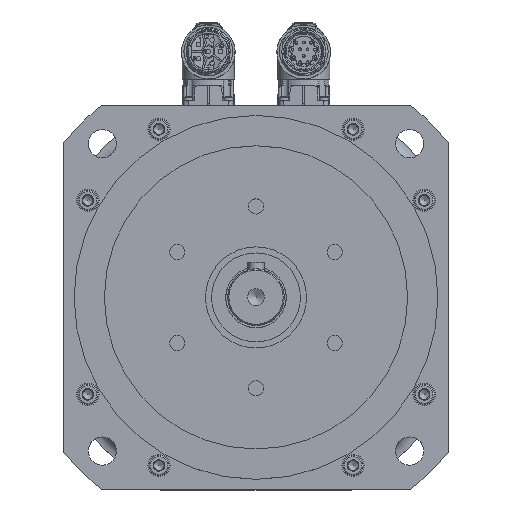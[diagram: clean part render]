
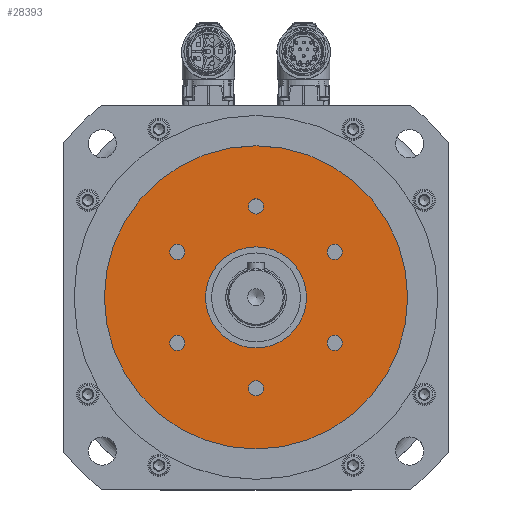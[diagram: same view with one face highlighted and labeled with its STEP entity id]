
A CAD part, top view. The second image highlights one B-rep face of the part: STEP entity #28393.
In plain terms, the highlighted planar face has unit normal (0, 0, 1).
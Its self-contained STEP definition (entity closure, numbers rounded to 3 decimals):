
#3906=FACE_BOUND('',#6308,.T.);
#3907=FACE_BOUND('',#6309,.T.);
#3908=FACE_BOUND('',#6310,.T.);
#3909=FACE_BOUND('',#6311,.T.);
#3910=FACE_BOUND('',#6312,.T.);
#3911=FACE_BOUND('',#6313,.T.);
#3912=FACE_BOUND('',#6314,.T.);
#3913=FACE_BOUND('',#6315,.T.);
#6308=EDGE_LOOP('',(#19821));
#6309=EDGE_LOOP('',(#19822));
#6310=EDGE_LOOP('',(#19823));
#6311=EDGE_LOOP('',(#19824));
#6312=EDGE_LOOP('',(#19825));
#6313=EDGE_LOOP('',(#19826));
#6314=EDGE_LOOP('',(#19827));
#6315=EDGE_LOOP('',(#19828));
#11523=CIRCLE('',#30172,3.75);
#11524=CIRCLE('',#30174,3.75);
#11525=CIRCLE('',#30176,3.75);
#11526=CIRCLE('',#30178,3.75);
#11527=CIRCLE('',#30180,3.75);
#11528=CIRCLE('',#30182,3.75);
#11558=CIRCLE('',#30241,25.);
#11562=CIRCLE('',#30250,75.);
#12883=VERTEX_POINT('',#40864);
#12884=VERTEX_POINT('',#40867);
#12885=VERTEX_POINT('',#40870);
#12886=VERTEX_POINT('',#40873);
#12887=VERTEX_POINT('',#40876);
#12888=VERTEX_POINT('',#40879);
#12918=VERTEX_POINT('',#40968);
#12922=VERTEX_POINT('',#40981);
#15750=EDGE_CURVE('',#12883,#12883,#11523,.T.);
#15751=EDGE_CURVE('',#12884,#12884,#11524,.T.);
#15752=EDGE_CURVE('',#12885,#12885,#11525,.T.);
#15753=EDGE_CURVE('',#12886,#12886,#11526,.T.);
#15754=EDGE_CURVE('',#12887,#12887,#11527,.T.);
#15755=EDGE_CURVE('',#12888,#12888,#11528,.T.);
#15785=EDGE_CURVE('',#12918,#12918,#11558,.T.);
#15789=EDGE_CURVE('',#12922,#12922,#11562,.T.);
#19821=ORIENTED_EDGE('',*,*,#15750,.T.);
#19822=ORIENTED_EDGE('',*,*,#15751,.T.);
#19823=ORIENTED_EDGE('',*,*,#15752,.T.);
#19824=ORIENTED_EDGE('',*,*,#15753,.T.);
#19825=ORIENTED_EDGE('',*,*,#15754,.T.);
#19826=ORIENTED_EDGE('',*,*,#15755,.T.);
#19827=ORIENTED_EDGE('',*,*,#15785,.T.);
#19828=ORIENTED_EDGE('',*,*,#15789,.F.);
#27713=PLANE('',#30249);
#28393=ADVANCED_FACE('',(#3906,#3907,#3908,#3909,#3910,#3911,#3912,#3913),
#27713,.T.);
#30172=AXIS2_PLACEMENT_3D('',#40865,#33268,#33269);
#30174=AXIS2_PLACEMENT_3D('',#40868,#33272,#33273);
#30176=AXIS2_PLACEMENT_3D('',#40871,#33276,#33277);
#30178=AXIS2_PLACEMENT_3D('',#40874,#33280,#33281);
#30180=AXIS2_PLACEMENT_3D('',#40877,#33284,#33285);
#30182=AXIS2_PLACEMENT_3D('',#40880,#33288,#33289);
#30241=AXIS2_PLACEMENT_3D('',#40969,#33406,#33407);
#30249=AXIS2_PLACEMENT_3D('',#40980,#33422,#33423);
#30250=AXIS2_PLACEMENT_3D('',#40982,#33424,#33425);
#33268=DIRECTION('center_axis',(0.,0.,-1.));
#33269=DIRECTION('ref_axis',(0.5,-0.866,0.));
#33272=DIRECTION('center_axis',(0.,0.,-1.));
#33273=DIRECTION('ref_axis',(-0.5,-0.866,0.));
#33276=DIRECTION('center_axis',(0.,0.,-1.));
#33277=DIRECTION('ref_axis',(-1.,0.,0.));
#33280=DIRECTION('center_axis',(0.,0.,-1.));
#33281=DIRECTION('ref_axis',(-0.5,0.866,0.));
#33284=DIRECTION('center_axis',(0.,0.,-1.));
#33285=DIRECTION('ref_axis',(0.5,0.866,0.));
#33288=DIRECTION('center_axis',(0.,0.,-1.));
#33289=DIRECTION('ref_axis',(1.,0.,0.));
#33406=DIRECTION('center_axis',(0.,0.,-1.));
#33407=DIRECTION('ref_axis',(-1.,0.,0.));
#33422=DIRECTION('center_axis',(0.,0.,1.));
#33423=DIRECTION('ref_axis',(1.,0.,0.));
#33424=DIRECTION('center_axis',(0.,0.,-1.));
#33425=DIRECTION('ref_axis',(-1.,0.,0.));
#40864=CARTESIAN_POINT('',(40.846,19.252,-1.));
#40865=CARTESIAN_POINT('Origin',(38.971,22.5,-1.));
#40867=CARTESIAN_POINT('',(37.096,-25.748,-1.));
#40868=CARTESIAN_POINT('Origin',(38.971,-22.5,-1.));
#40870=CARTESIAN_POINT('',(-3.75,-45.,-1.));
#40871=CARTESIAN_POINT('Origin',(0.,-45.,-1.));
#40873=CARTESIAN_POINT('',(-40.846,-19.252,-1.));
#40874=CARTESIAN_POINT('Origin',(-38.971,-22.5,-1.));
#40876=CARTESIAN_POINT('',(-37.096,25.748,-1.));
#40877=CARTESIAN_POINT('Origin',(-38.971,22.5,-1.));
#40879=CARTESIAN_POINT('',(3.75,45.,-1.));
#40880=CARTESIAN_POINT('Origin',(0.,45.,-1.));
#40968=CARTESIAN_POINT('',(25.,0.,-1.));
#40969=CARTESIAN_POINT('Origin',(0.,0.,-1.));
#40980=CARTESIAN_POINT('Origin',(0.,0.,
-1.));
#40981=CARTESIAN_POINT('',(75.,0.,-1.));
#40982=CARTESIAN_POINT('Origin',(0.,0.,-1.));
